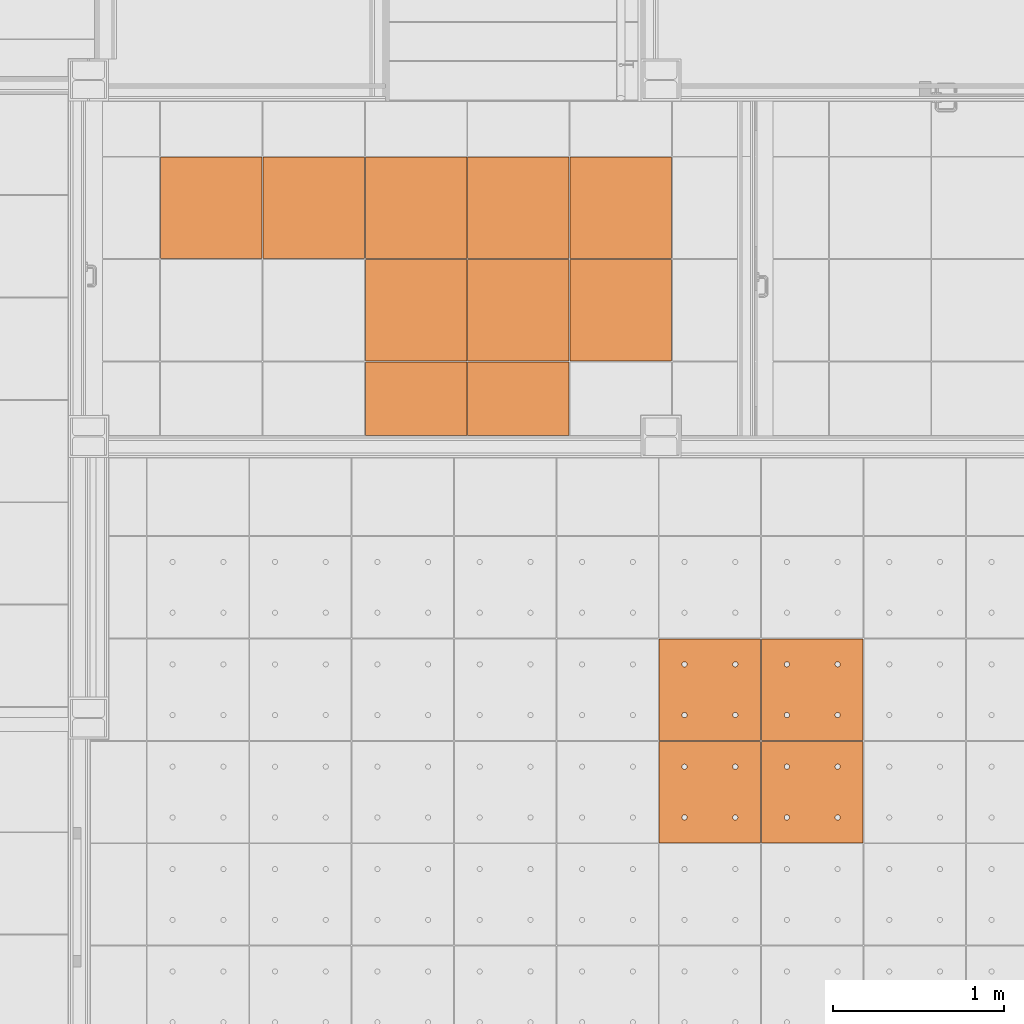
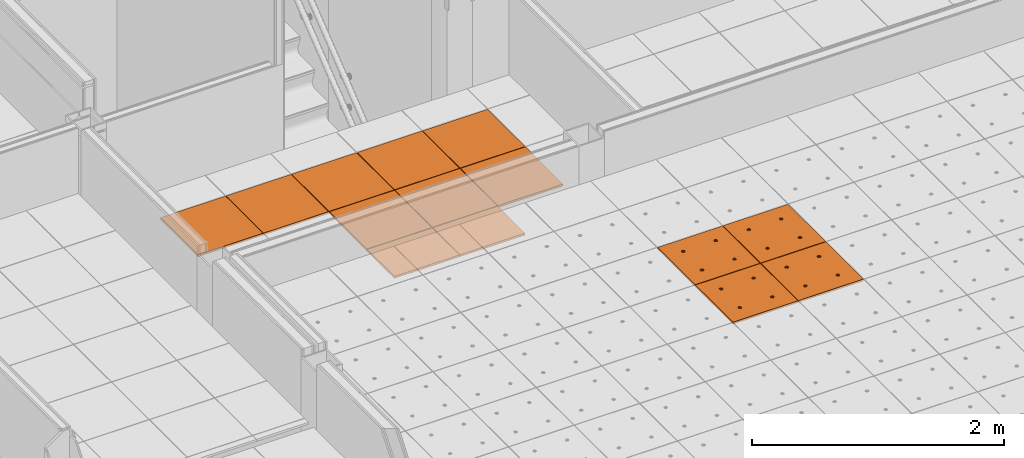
# One storey, part 260 of 338: 14 proxies, 2 elements without a shape of their own.
"""IFC2X3 building model written with IfcOpenShell, lengths in millimetres."""

from ifc_helpers import new_model, entity, si_unit, converted_unit, derived_unit, money_unit, direction, frame, origin_with_axes, place, context, subcontext, project, spatial, faceted_brep, source, transform, mapped, material, type_object, type_shapes, element, aggregate, save


model = new_model("IFC2X3")

# Units and contexts
model_context = context("Model", 3, precision=0.01, world=origin_with_axes(), true_north=direction((0.0, 1.0)))
plan_context = context("Plan", 3, precision=0.01, world=origin_with_axes(), true_north=direction((0.0, 1.0)))
body_context = subcontext(model_context, "Body", "Model", "MODEL_VIEW")
ifc_project = project(units=[si_unit("LENGTHUNIT", "METRE", prefix="MILLI"), si_unit("AREAUNIT", "SQUARE_METRE"), si_unit("VOLUMEUNIT", "CUBIC_METRE"), converted_unit("PLANEANGLEUNIT", "DEGREE", entity("IfcPlaneAngleMeasure", 0.0174532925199), si_unit("PLANEANGLEUNIT", "RADIAN"), dimensions=[0, 0, 0, 0, 0, 0, 0]), money_unit("EUR"), converted_unit("TIMEUNIT", "Year", entity("IfcTimeMeasure", 31556926.0), si_unit("TIMEUNIT", "SECOND"), dimensions=[0, 0, 1, 0, 0, 0, 0]), si_unit("MASSUNIT", "GRAM", prefix="KILO"), si_unit("THERMODYNAMICTEMPERATUREUNIT", "DEGREE_CELSIUS"), si_unit("LUMINOUSINTENSITYUNIT", "LUMEN"), si_unit("ENERGYUNIT", "JOULE", prefix="MEGA"), derived_unit("THERMALCONDUCTANCEUNIT", [(si_unit("POWERUNIT", "WATT"), 1), (si_unit("LENGTHUNIT", "METRE"), -1), (si_unit("THERMODYNAMICTEMPERATUREUNIT", "KELVIN"), -1)]), derived_unit("SPECIFICHEATCAPACITYUNIT", [(si_unit("ENERGYUNIT", "JOULE"), 1), (si_unit("MASSUNIT", "GRAM", prefix="KILO"), -1), (si_unit("THERMODYNAMICTEMPERATUREUNIT", "KELVIN"), -1)]), derived_unit("MASSDENSITYUNIT", [(si_unit("MASSUNIT", "GRAM", prefix="KILO"), 1), (si_unit("VOLUMEUNIT", "CUBIC_METRE"), -1)])], contexts=[model_context, plan_context])

# Site, building, storey
site_placement = place(None, origin_with_axes())
site = spatial("IfcSite", under=ifc_project, at=site_placement, Name="Fortuinstraat Woensdrecht", CompositionType="ELEMENT")
building_placement = place(site_placement, origin_with_axes())
building = spatial("IfcBuilding", under=site, at=building_placement, Name="IKC Fortuna", CompositionType="ELEMENT")
storey_placement = place(building_placement, origin_with_axes())
storey = spatial("IfcBuildingStorey", under=building, at=storey_placement, Name="00 begane grond", CompositionType="ELEMENT", Elevation=0.0)

# Covering, proxies
covering_type = type_object("IfcCoveringType", Name="Curtain Wall Type", PredefinedType="CEILING")
covering_1_placement = place(storey_placement, frame((28134.6600538, 19636.0305189, 2810.0), z_axis=(0.0, 0.0, 1.0), x_axis=(1.0, 0.0, 0.0)))
covering_1 = element("IfcCovering", 1, at=covering_1_placement, inside=storey, type_object=covering_type, Name="45_Plafondafwerking_P02", PredefinedType="CEILING")
ifc_material = material(Name="Gipsplaat")
building_element_proxy_type_1 = type_object("IfcBuildingElementProxyType", Name="Distinct Panel 600 x 600 x 20", PredefinedType="NOTDEFINED")
shared_shape_1 = source(origin_with_axes(), body_context, "Body", "Brep", [
    faceted_brep([(-2.49999999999, 2.5, -10.0), (-2.49999999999, 2.5, 10.0), (-597.5, 2.49999999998, 10.0), (-597.5, 2.49999999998, -10.0), (-2.50000000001, 597.5, -10.0), (-2.50000000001, 597.5, 10.0), (-597.5, 597.5, 10.0), (-597.5, 597.5, -10.0)], [[[0, 1, 2, 3]], [[4, 5, 1, 0]], [[1, 5, 6, 2]], [[3, 2, 6, 7]], [[0, 3, 7, 4]], [[7, 6, 5, 4]]]),
])
proxy_1_placement = place(covering_1_placement, frame((-1200.0, -463.766085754, 0.0), z_axis=(0.0, 0.0, 1.0), x_axis=(1.0, 0.0, 0.0)))
proxy_1 = element("IfcBuildingElementProxy", 2, at=proxy_1_placement, type_object=building_element_proxy_type_1, material=ifc_material, Name="__Panel-D", context=body_context, shape_type="MappedRepresentation", body=[
    mapped(shared_shape_1, transform((-300.0, 300.0, 0.0), x_axis=(-1.0, 0.0, 0.0), y_axis=(0.0, -1.0, 0.0), z_axis=(0.0, 0.0, 1.0))),
])
proxy_2_placement = place(covering_1_placement, frame((0.0, -463.766085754, 0.0), z_axis=(0.0, 0.0, 1.0), x_axis=(1.0, 0.0, 0.0)))
proxy_2 = element("IfcBuildingElementProxy", 3, at=proxy_2_placement, type_object=building_element_proxy_type_1, material=ifc_material, Name="__Panel-D", context=body_context, shape_type="MappedRepresentation", body=[
    mapped(shared_shape_1, transform((-300.0, 300.0, 0.0), x_axis=(-1.0, 0.0, 0.0), y_axis=(0.0, -1.0, 0.0), z_axis=(0.0, 0.0, 1.0))),
])
proxy_3_placement = place(covering_1_placement, frame((-600.0, -1063.76608575, 0.0), z_axis=(0.0, 0.0, 1.0), x_axis=(1.0, 0.0, 0.0)))
proxy_3 = element("IfcBuildingElementProxy", 4, at=proxy_3_placement, type_object=building_element_proxy_type_1, material=ifc_material, Name="__Panel-D", context=body_context, shape_type="MappedRepresentation", body=[
    mapped(shared_shape_1, transform((-300.0, 300.0, 0.0), x_axis=(-1.0, 0.0, 0.0), y_axis=(0.0, -1.0, 0.0), z_axis=(0.0, 0.0, 1.0))),
])
proxy_4_placement = place(covering_1_placement, frame((600.0, -463.766085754, 0.0), z_axis=(0.0, 0.0, 1.0), x_axis=(1.0, 0.0, 0.0)))
proxy_4 = element("IfcBuildingElementProxy", 5, at=proxy_4_placement, type_object=building_element_proxy_type_1, material=ifc_material, Name="__Panel-D", context=body_context, shape_type="MappedRepresentation", body=[
    mapped(shared_shape_1, transform((-300.0, 300.0, 0.0), x_axis=(-1.0, 0.0, 0.0), y_axis=(0.0, -1.0, 0.0), z_axis=(0.0, 0.0, 1.0))),
])
proxy_5_placement = place(covering_1_placement, frame((0.0, -1063.76608575, 0.0), z_axis=(0.0, 0.0, 1.0), x_axis=(1.0, 0.0, 0.0)))
proxy_5 = element("IfcBuildingElementProxy", 6, at=proxy_5_placement, type_object=building_element_proxy_type_1, material=ifc_material, Name="__Panel-D", context=body_context, shape_type="MappedRepresentation", body=[
    mapped(shared_shape_1, transform((-300.0, 300.0, 0.0), x_axis=(-1.0, 0.0, 0.0), y_axis=(0.0, -1.0, 0.0), z_axis=(0.0, 0.0, 1.0))),
])
shared_shape_2 = source(origin_with_axes(), body_context, "Body", "Brep", [
    faceted_brep([(-2.50000188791, 2.50000518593, -10.0), (-2.50000188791, 2.50000518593, 10.0), (-597.499994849, 2.50000192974, 10.0), (-597.499994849, 2.50000192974, -10.0), (-2.50000514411, 597.499998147, -10.0), (-2.50000514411, 597.499998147, 10.0), (-597.499998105, 597.499994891, 10.0), (-597.499998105, 597.499994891, -10.0)], [[[0, 1, 2, 3]], [[4, 5, 1, 0]], [[1, 5, 6, 2]], [[3, 2, 6, 7]], [[0, 3, 7, 4]], [[7, 6, 5, 4]]]),
])
proxy_6_placement = place(covering_1_placement, frame((-600.0, -463.766085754, 0.0), z_axis=(0.0, 0.0, 1.0), x_axis=(1.0, 0.0, 0.0)))
proxy_6 = element("IfcBuildingElementProxy", 7, at=proxy_6_placement, type_object=building_element_proxy_type_1, material=ifc_material, Name="__Panel-D", context=body_context, shape_type="MappedRepresentation", body=[
    mapped(shared_shape_2, transform((-300.0, 300.0, 0.0), x_axis=(-1.0, 0.0, 0.0), y_axis=(0.0, -1.0, 0.0), z_axis=(0.0, 0.0, 1.0))),
])
shared_shape_3 = source(origin_with_axes(), body_context, "Body", "Brep", [
    faceted_brep([(-2.5000069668, 2.4999963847, -10.0), (-2.5000069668, 2.4999963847, 10.0), (-597.499995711, 2.50000275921, 10.0), (-597.499995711, 2.50000275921, -10.0), (-2.50000214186, 597.499967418, -10.0), (-2.50000214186, 597.499967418, 10.0), (-597.499990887, 597.499973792, 10.0), (-597.499990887, 597.499973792, -10.0)], [[[0, 1, 2, 3]], [[4, 5, 1, 0]], [[1, 5, 6, 2]], [[3, 2, 6, 7]], [[0, 3, 7, 4]], [[7, 6, 5, 4]]]),
])
type_shapes(building_element_proxy_type_1, [shared_shape_1, shared_shape_2, shared_shape_3])
proxy_7_placement = place(covering_1_placement, frame((600.0, -1063.76608575, 0.0), z_axis=(0.0, 0.0, 1.0), x_axis=(1.0, 0.0, 0.0)))
proxy_7 = element("IfcBuildingElementProxy", 8, at=proxy_7_placement, type_object=building_element_proxy_type_1, material=ifc_material, Name="__Panel-D", context=body_context, shape_type="MappedRepresentation", body=[
    mapped(shared_shape_3, transform((-300.0, 300.0, 0.0), x_axis=(-1.0, 0.0, 0.0), y_axis=(0.0, -1.0, 0.0), z_axis=(0.0, 0.0, 1.0))),
])
proxy_8_placement = place(covering_1_placement, frame((-1800.0, -463.766085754, 0.0), z_axis=(0.0, 0.0, 1.0), x_axis=(1.0, 0.0, 0.0)))
proxy_8 = element("IfcBuildingElementProxy", 9, at=proxy_8_placement, type_object=building_element_proxy_type_1, material=ifc_material, Name="__Panel-D", context=body_context, shape_type="MappedRepresentation", body=[
    mapped(shared_shape_3, transform((-300.0, 300.0, 0.0), x_axis=(-1.0, 0.0, 0.0), y_axis=(0.0, -1.0, 0.0), z_axis=(0.0, 0.0, 1.0))),
])

covering_2_placement = place(storey_placement, frame((31656.9226967, 15748.5304598, 3210.0), z_axis=(0.0, 0.0, 1.0), x_axis=(1.0, 0.0, 0.0)))
covering_2 = element("IfcCovering", 10, at=covering_2_placement, inside=storey, type_object=covering_type, Name="45_Plafondafwerking_P01", PredefinedType="CEILING")
building_element_proxy_type_2 = type_object("IfcBuildingElementProxyType", Name="Main Panel 600 x 600 x 20", PredefinedType="NOTDEFINED")
shared_shape_4 = source(origin_with_axes(), body_context, "Body", "Brep", [
    faceted_brep([(2.49999999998, 2.49999999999, -10.0), (300.0, 2.49999999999, -10.0), (300.0, 2.49999999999, 10.0), (2.49999999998, 2.49999999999, 10.0), (2.49999999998, 300.0, -10.0), (2.49999999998, 597.5, -10.0), (300.0, 597.5, -10.0), (597.5, 597.5, -10.0), (597.5, 300.0, -10.0), (597.5, 2.49999999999, -10.0), (166.25, 450.06232995, -10.0), (165.79423259, 452.64711538, -10.0), (164.896546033, 455.11348892, -10.0), (163.58421608, 457.38651108, -10.0), (161.897117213, 459.39711721, -10.0), (159.886511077, 461.08421608, -10.0), (157.613488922, 462.39654603, -10.0), (155.147115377, 463.29423259, -10.0), (152.562329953, 463.75, -10.0), (149.937670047, 463.75, -10.0), (147.352884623, 463.29423259, -10.0), (144.886511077, 462.39654603, -10.0), (142.613488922, 461.08421608, -10.0), (140.602882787, 459.39711721, -10.0), (138.91578392, 457.38651108, -10.0), (137.603453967, 455.11348892, -10.0), (136.705767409, 452.64711538, -10.0), (136.25, 450.06232995, -10.0), (136.25, 448.75, -10.0), (136.25, 447.43767005, -10.0), (136.705767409, 444.85288462, -10.0), (137.603453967, 442.38651108, -10.0), (138.91578392, 440.11348892, -10.0), (140.602882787, 438.10288279, -10.0), (142.613488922, 436.41578392, -10.0), (144.886511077, 435.10345397, -10.0), (147.352884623, 434.20576741, -10.0), (149.937670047, 433.75, -10.0), (152.562329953, 433.75, -10.0), (155.147115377, 434.20576741, -10.0), (157.613488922, 435.10345397, -10.0), (159.886511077, 436.41578392, -10.0), (161.897117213, 438.10288279, -10.0), (163.58421608, 440.11348892, -10.0), (164.896546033, 442.38651108, -10.0), (165.79423259, 444.85288462, -10.0), (166.25, 447.43767005, -10.0), (463.75, 450.06232995, -10.0), (463.29423259, 452.64711538, -10.0), (462.396546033, 455.11348892, -10.0), (461.08421608, 457.38651108, -10.0), (459.397117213, 459.39711721, -10.0), (457.386511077, 461.08421608, -10.0), (455.113488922, 462.39654603, -10.0), (452.647115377, 463.29423259, -10.0), (450.062329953, 463.75, -10.0), (447.437670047, 463.75, -10.0), (444.852884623, 463.29423259, -10.0), (442.386511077, 462.39654603, -10.0), (440.113488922, 461.08421608, -10.0), (438.102882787, 459.39711721, -10.0), (436.41578392, 457.38651108, -10.0), (435.103453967, 455.11348892, -10.0), (434.205767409, 452.64711538, -10.0), (433.75, 450.06232995, -10.0), (433.75, 448.75, -10.0), (433.75, 447.43767005, -10.0), (434.205767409, 444.85288462, -10.0), (435.103453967, 442.38651108, -10.0), (436.41578392, 440.11348892, -10.0), (438.102882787, 438.10288279, -10.0), (440.113488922, 436.41578392, -10.0), (442.386511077, 435.10345397, -10.0), (444.852884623, 434.20576741, -10.0), (447.437670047, 433.75, -10.0), (450.062329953, 433.75, -10.0), (452.647115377, 434.20576741, -10.0), (455.113488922, 435.10345397, -10.0), (457.386511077, 436.41578392, -10.0), (459.397117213, 438.10288279, -10.0), (461.08421608, 440.11348892, -10.0), (462.396546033, 442.38651108, -10.0), (463.29423259, 444.85288462, -10.0), (463.75, 447.43767005, -10.0), (463.75, 152.56232995, -10.0), (463.29423259, 155.14711538, -10.0), (462.396546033, 157.61348892, -10.0), (461.08421608, 159.88651108, -10.0), (459.397117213, 161.89711721, -10.0), (457.386511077, 163.58421608, -10.0), (455.113488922, 164.89654603, -10.0), (452.647115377, 165.79423259, -10.0), (450.062329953, 166.25, -10.0), (447.437670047, 166.25, -10.0), (444.852884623, 165.79423259, -10.0), (442.386511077, 164.89654603, -10.0), (440.113488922, 163.58421608, -10.0), (438.102882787, 161.89711721, -10.0), (436.41578392, 159.88651108, -10.0), (435.103453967, 157.61348892, -10.0), (434.205767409, 155.14711538, -10.0), (433.75, 152.56232995, -10.0), (433.75, 151.25, -10.0), (433.75, 149.93767005, -10.0), (434.205767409, 147.35288462, -10.0), (435.103453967, 144.88651108, -10.0), (436.41578392, 142.61348892, -10.0), (438.102882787, 140.60288279, -10.0), (440.113488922, 138.91578392, -10.0), (442.386511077, 137.60345397, -10.0), (444.852884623, 136.70576741, -10.0), (447.437670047, 136.25, -10.0), (450.062329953, 136.25, -10.0), (452.647115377, 136.70576741, -10.0), (455.113488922, 137.60345397, -10.0), (457.386511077, 138.91578392, -10.0), (459.397117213, 140.60288279, -10.0), (461.08421608, 142.61348892, -10.0), (462.396546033, 144.88651108, -10.0), (463.29423259, 147.35288462, -10.0), (463.75, 149.93767005, -10.0), (166.25, 152.56232995, -10.0), (165.79423259, 155.14711538, -10.0), (164.896546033, 157.61348892, -10.0), (163.58421608, 159.88651108, -10.0), (161.897117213, 161.89711721, -10.0), (159.886511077, 163.58421608, -10.0), (157.613488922, 164.89654603, -10.0), (155.147115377, 165.79423259, -10.0), (152.562329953, 166.25, -10.0), (149.937670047, 166.25, -10.0), (147.352884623, 165.79423259, -10.0), (144.886511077, 164.89654603, -10.0), (142.613488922, 163.58421608, -10.0), (140.602882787, 161.89711721, -10.0), (138.91578392, 159.88651108, -10.0), (137.603453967, 157.61348892, -10.0), (136.705767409, 155.14711538, -10.0), (136.25, 152.56232995, -10.0), (136.25, 151.25, -10.0), (136.25, 149.93767005, -10.0), (136.705767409, 147.35288462, -10.0), (137.603453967, 144.88651108, -10.0), (138.91578392, 142.61348892, -10.0), (140.602882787, 140.60288279, -10.0), (142.613488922, 138.91578392, -10.0), (144.886511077, 137.60345397, -10.0), (147.352884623, 136.70576741, -10.0), (149.937670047, 136.25, -10.0), (152.562329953, 136.25, -10.0), (155.147115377, 136.70576741, -10.0), (157.613488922, 137.60345397, -10.0), (159.886511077, 138.91578392, -10.0), (161.897117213, 140.60288279, -10.0), (163.58421608, 142.61348892, -10.0), (164.896546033, 144.88651108, -10.0), (165.79423259, 147.35288462, -10.0), (166.25, 149.93767005, -10.0), (597.5, 2.49999999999, 10.0), (597.5, 300.0, 10.0), (597.5, 597.5, 10.0), (300.0, 597.5, 10.0), (2.49999999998, 597.5, 10.0), (2.49999999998, 300.0, 10.0), (166.25, 450.06232995, 10.0), (166.25, 447.43767005, 10.0), (165.79423259, 444.85288462, 10.0), (164.896546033, 442.38651108, 10.0), (163.58421608, 440.11348892, 10.0), (161.897117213, 438.10288279, 10.0), (159.886511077, 436.41578392, 10.0), (157.613488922, 435.10345397, 10.0), (155.147115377, 434.20576741, 10.0), (152.562329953, 433.75, 10.0), (149.937670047, 433.75, 10.0), (147.352884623, 434.20576741, 10.0), (144.886511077, 435.10345397, 10.0), (142.613488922, 436.41578392, 10.0), (140.602882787, 438.10288279, 10.0), (138.91578392, 440.11348892, 10.0), (137.603453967, 442.38651108, 10.0), (136.705767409, 444.85288462, 10.0), (136.25, 447.43767005, 10.0), (136.25, 448.75, 10.0), (136.25, 450.06232995, 10.0), (136.705767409, 452.64711538, 10.0), (137.603453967, 455.11348892, 10.0), (138.91578392, 457.38651108, 10.0), (140.602882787, 459.39711721, 10.0), (142.613488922, 461.08421608, 10.0), (144.886511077, 462.39654603, 10.0), (147.352884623, 463.29423259, 10.0), (149.937670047, 463.75, 10.0), (152.562329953, 463.75, 10.0), (155.147115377, 463.29423259, 10.0), (157.613488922, 462.39654603, 10.0), (159.886511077, 461.08421608, 10.0), (161.897117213, 459.39711721, 10.0), (163.58421608, 457.38651108, 10.0), (164.896546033, 455.11348892, 10.0), (165.79423259, 452.64711538, 10.0), (463.75, 450.06232995, 10.0), (463.75, 447.43767005, 10.0), (463.29423259, 444.85288462, 10.0), (462.396546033, 442.38651108, 10.0), (461.08421608, 440.11348892, 10.0), (459.397117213, 438.10288279, 10.0), (457.386511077, 436.41578392, 10.0), (455.113488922, 435.10345397, 10.0), (452.647115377, 434.20576741, 10.0), (450.062329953, 433.75, 10.0), (447.437670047, 433.75, 10.0), (444.852884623, 434.20576741, 10.0), (442.386511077, 435.10345397, 10.0), (440.113488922, 436.41578392, 10.0), (438.102882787, 438.10288279, 10.0), (436.41578392, 440.11348892, 10.0), (435.103453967, 442.38651108, 10.0), (434.205767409, 444.85288462, 10.0), (433.75, 447.43767005, 10.0), (433.75, 448.75, 10.0), (433.75, 450.06232995, 10.0), (434.205767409, 452.64711538, 10.0), (435.103453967, 455.11348892, 10.0), (436.41578392, 457.38651108, 10.0), (438.102882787, 459.39711721, 10.0), (440.113488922, 461.08421608, 10.0), (442.386511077, 462.39654603, 10.0), (444.852884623, 463.29423259, 10.0), (447.437670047, 463.75, 10.0), (450.062329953, 463.75, 10.0), (452.647115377, 463.29423259, 10.0), (455.113488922, 462.39654603, 10.0), (457.386511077, 461.08421608, 10.0), (459.397117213, 459.39711721, 10.0), (461.08421608, 457.38651108, 10.0), (462.396546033, 455.11348892, 10.0), (463.29423259, 452.64711538, 10.0), (463.75, 152.56232995, 10.0), (463.75, 149.93767005, 10.0), (463.29423259, 147.35288462, 10.0), (462.396546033, 144.88651108, 10.0), (461.08421608, 142.61348892, 10.0), (459.397117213, 140.60288279, 10.0), (457.386511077, 138.91578392, 10.0), (455.113488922, 137.60345397, 10.0), (452.647115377, 136.70576741, 10.0), (450.062329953, 136.25, 10.0), (447.437670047, 136.25, 10.0), (444.852884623, 136.70576741, 10.0), (442.386511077, 137.60345397, 10.0), (440.113488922, 138.91578392, 10.0), (438.102882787, 140.60288279, 10.0), (436.41578392, 142.61348892, 10.0), (435.103453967, 144.88651108, 10.0), (434.205767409, 147.35288462, 10.0), (433.75, 149.93767005, 10.0), (433.75, 151.25, 10.0), (433.75, 152.56232995, 10.0), (434.205767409, 155.14711538, 10.0), (435.103453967, 157.61348892, 10.0), (436.41578392, 159.88651108, 10.0), (438.102882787, 161.89711721, 10.0), (440.113488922, 163.58421608, 10.0), (442.386511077, 164.89654603, 10.0), (444.852884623, 165.79423259, 10.0), (447.437670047, 166.25, 10.0), (450.062329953, 166.25, 10.0), (452.647115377, 165.79423259, 10.0), (455.113488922, 164.89654603, 10.0), (457.386511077, 163.58421608, 10.0), (459.397117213, 161.89711721, 10.0), (461.08421608, 159.88651108, 10.0), (462.396546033, 157.61348892, 10.0), (463.29423259, 155.14711538, 10.0), (166.25, 152.56232995, 10.0), (166.25, 149.93767005, 10.0), (165.79423259, 147.35288462, 10.0), (164.896546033, 144.88651108, 10.0), (163.58421608, 142.61348892, 10.0), (161.897117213, 140.60288279, 10.0), (159.886511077, 138.91578392, 10.0), (157.613488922, 137.60345397, 10.0), (155.147115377, 136.70576741, 10.0), (152.562329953, 136.25, 10.0), (149.937670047, 136.25, 10.0), (147.352884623, 136.70576741, 10.0), (144.886511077, 137.60345397, 10.0), (142.613488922, 138.91578392, 10.0), (140.602882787, 140.60288279, 10.0), (138.91578392, 142.61348892, 10.0), (137.603453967, 144.88651108, 10.0), (136.705767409, 147.35288462, 10.0), (136.25, 149.93767005, 10.0), (136.25, 151.25, 10.0), (136.25, 152.56232995, 10.0), (136.705767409, 155.14711538, 10.0), (137.603453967, 157.61348892, 10.0), (138.91578392, 159.88651108, 10.0), (140.602882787, 161.89711721, 10.0), (142.613488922, 163.58421608, 10.0), (144.886511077, 164.89654603, 10.0), (147.352884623, 165.79423259, 10.0), (149.937670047, 166.25, 10.0), (152.562329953, 166.25, 10.0), (155.147115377, 165.79423259, 10.0), (157.613488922, 164.89654603, 10.0), (159.886511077, 163.58421608, 10.0), (161.897117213, 161.89711721, 10.0), (163.58421608, 159.88651108, 10.0), (164.896546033, 157.61348892, 10.0), (165.79423259, 155.14711538, 10.0)], [[[0, 1, 2, 3]], [[0, 4, 5, 6, 7, 8, 9, 1], [10, 11, 12, 13, 14, 15, 16, 17, 18, 19, 20, 21, 22, 23, 24, 25, 26, 27, 28, 29, 30, 31, 32, 33, 34, 35, 36, 37, 38, 39, 40, 41, 42, 43, 44, 45, 46], [47, 48, 49, 50, 51, 52, 53, 54, 55, 56, 57, 58, 59, 60, 61, 62, 63, 64, 65, 66, 67, 68, 69, 70, 71, 72, 73, 74, 75, 76, 77, 78, 79, 80, 81, 82, 83], [84, 85, 86, 87, 88, 89, 90, 91, 92, 93, 94, 95, 96, 97, 98, 99, 100, 101, 102, 103, 104, 105, 106, 107, 108, 109, 110, 111, 112, 113, 114, 115, 116, 117, 118, 119, 120], [121, 122, 123, 124, 125, 126, 127, 128, 129, 130, 131, 132, 133, 134, 135, 136, 137, 138, 139, 140, 141, 142, 143, 144, 145, 146, 147, 148, 149, 150, 151, 152, 153, 154, 155, 156, 157]], [[1, 9, 158, 2]], [[3, 2, 158, 159, 160, 161, 162, 163], [164, 165, 166, 167, 168, 169, 170, 171, 172, 173, 174, 175, 176, 177, 178, 179, 180, 181, 182, 183, 184, 185, 186, 187, 188, 189, 190, 191, 192, 193, 194, 195, 196, 197, 198, 199, 200], [201, 202, 203, 204, 205, 206, 207, 208, 209, 210, 211, 212, 213, 214, 215, 216, 217, 218, 219, 220, 221, 222, 223, 224, 225, 226, 227, 228, 229, 230, 231, 232, 233, 234, 235, 236, 237], [238, 239, 240, 241, 242, 243, 244, 245, 246, 247, 248, 249, 250, 251, 252, 253, 254, 255, 256, 257, 258, 259, 260, 261, 262, 263, 264, 265, 266, 267, 268, 269, 270, 271, 272, 273, 274], [275, 276, 277, 278, 279, 280, 281, 282, 283, 284, 285, 286, 287, 288, 289, 290, 291, 292, 293, 294, 295, 296, 297, 298, 299, 300, 301, 302, 303, 304, 305, 306, 307, 308, 309, 310, 311]], [[4, 0, 3, 163]], [[5, 4, 163, 162]], [[6, 5, 162, 161]], [[7, 6, 161, 160]], [[8, 7, 160, 159]], [[9, 8, 159, 158]], [[11, 10, 164, 200]], [[12, 11, 200, 199]], [[13, 12, 199, 198]], [[14, 13, 198, 197]], [[15, 14, 197, 196]], [[16, 15, 196, 195]], [[17, 16, 195, 194]], [[18, 17, 194, 193]], [[19, 18, 193, 192]], [[20, 19, 192, 191]], [[21, 20, 191, 190]], [[22, 21, 190, 189]], [[23, 22, 189, 188]], [[24, 23, 188, 187]], [[25, 24, 187, 186]], [[26, 25, 186, 185]], [[27, 26, 185, 184]], [[28, 27, 184, 183]], [[29, 28, 183, 182]], [[30, 29, 182, 181]], [[31, 30, 181, 180]], [[32, 31, 180, 179]], [[33, 32, 179, 178]], [[34, 33, 178, 177]], [[35, 34, 177, 176]], [[36, 35, 176, 175]], [[37, 36, 175, 174]], [[38, 37, 174, 173]], [[39, 38, 173, 172]], [[40, 39, 172, 171]], [[41, 40, 171, 170]], [[42, 41, 170, 169]], [[43, 42, 169, 168]], [[44, 43, 168, 167]], [[45, 44, 167, 166]], [[46, 45, 166, 165]], [[10, 46, 165, 164]], [[48, 47, 201, 237]], [[49, 48, 237, 236]], [[50, 49, 236, 235]], [[51, 50, 235, 234]], [[52, 51, 234, 233]], [[53, 52, 233, 232]], [[54, 53, 232, 231]], [[55, 54, 231, 230]], [[56, 55, 230, 229]], [[57, 56, 229, 228]], [[58, 57, 228, 227]], [[59, 58, 227, 226]], [[60, 59, 226, 225]], [[61, 60, 225, 224]], [[62, 61, 224, 223]], [[63, 62, 223, 222]], [[64, 63, 222, 221]], [[65, 64, 221, 220]], [[66, 65, 220, 219]], [[67, 66, 219, 218]], [[68, 67, 218, 217]], [[69, 68, 217, 216]], [[70, 69, 216, 215]], [[71, 70, 215, 214]], [[72, 71, 214, 213]], [[73, 72, 213, 212]], [[74, 73, 212, 211]], [[75, 74, 211, 210]], [[76, 75, 210, 209]], [[77, 76, 209, 208]], [[78, 77, 208, 207]], [[79, 78, 207, 206]], [[80, 79, 206, 205]], [[81, 80, 205, 204]], [[82, 81, 204, 203]], [[83, 82, 203, 202]], [[47, 83, 202, 201]], [[85, 84, 238, 274]], [[86, 85, 274, 273]], [[87, 86, 273, 272]], [[88, 87, 272, 271]], [[89, 88, 271, 270]], [[90, 89, 270, 269]], [[91, 90, 269, 268]], [[92, 91, 268, 267]], [[93, 92, 267, 266]], [[94, 93, 266, 265]], [[95, 94, 265, 264]], [[96, 95, 264, 263]], [[97, 96, 263, 262]], [[98, 97, 262, 261]], [[99, 98, 261, 260]], [[100, 99, 260, 259]], [[101, 100, 259, 258]], [[102, 101, 258, 257]], [[103, 102, 257, 256]], [[104, 103, 256, 255]], [[105, 104, 255, 254]], [[106, 105, 254, 253]], [[107, 106, 253, 252]], [[108, 107, 252, 251]], [[109, 108, 251, 250]], [[110, 109, 250, 249]], [[111, 110, 249, 248]], [[112, 111, 248, 247]], [[113, 112, 247, 246]], [[114, 113, 246, 245]], [[115, 114, 245, 244]], [[116, 115, 244, 243]], [[117, 116, 243, 242]], [[118, 117, 242, 241]], [[119, 118, 241, 240]], [[120, 119, 240, 239]], [[84, 120, 239, 238]], [[122, 121, 275, 311]], [[123, 122, 311, 310]], [[124, 123, 310, 309]], [[125, 124, 309, 308]], [[126, 125, 308, 307]], [[127, 126, 307, 306]], [[128, 127, 306, 305]], [[129, 128, 305, 304]], [[130, 129, 304, 303]], [[131, 130, 303, 302]], [[132, 131, 302, 301]], [[133, 132, 301, 300]], [[134, 133, 300, 299]], [[135, 134, 299, 298]], [[136, 135, 298, 297]], [[137, 136, 297, 296]], [[138, 137, 296, 295]], [[139, 138, 295, 294]], [[140, 139, 294, 293]], [[141, 140, 293, 292]], [[142, 141, 292, 291]], [[143, 142, 291, 290]], [[144, 143, 290, 289]], [[145, 144, 289, 288]], [[146, 145, 288, 287]], [[147, 146, 287, 286]], [[148, 147, 286, 285]], [[149, 148, 285, 284]], [[150, 149, 284, 283]], [[151, 150, 283, 282]], [[152, 151, 282, 281]], [[153, 152, 281, 280]], [[154, 153, 280, 279]], [[155, 154, 279, 278]], [[156, 155, 278, 277]], [[157, 156, 277, 276]], [[121, 157, 276, 275]]]),
])
type_shapes(building_element_proxy_type_2, [shared_shape_4])
proxy_9_placement = place(covering_2_placement, frame((-2400.0, 0.0, 1.74971148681e-10), z_axis=(0.0, 0.0, 1.0), x_axis=(1.0, 0.0, 0.0)))
proxy_9 = element("IfcBuildingElementProxy", 11, at=proxy_9_placement, type_object=building_element_proxy_type_2, material=ifc_material, Name="__600x630 Rockfon Krios", context=body_context, shape_type="MappedRepresentation", body=[
    mapped(shared_shape_4, transform((300.0, 300.0, 0.0), x_axis=(-1.0, 0.0, 0.0), y_axis=(0.0, -1.0, 0.0), z_axis=(0.0, 0.0, 1.0))),
])
proxy_10_placement = place(covering_2_placement, frame((-1800.0, 600.0, 1.55431223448e-10), z_axis=(0.0, 0.0, 1.0), x_axis=(1.0, 0.0, 0.0)))
proxy_10 = element("IfcBuildingElementProxy", 12, at=proxy_10_placement, type_object=building_element_proxy_type_2, material=ifc_material, Name="__600x644 Rockfon Krios", context=body_context, shape_type="MappedRepresentation", body=[
    mapped(shared_shape_4, transform((300.0, 300.0, 0.0), x_axis=(-1.0, 0.0, 0.0), y_axis=(0.0, -1.0, 0.0), z_axis=(0.0, 0.0, 1.0))),
])
proxy_11_placement = place(covering_2_placement, frame((-2400.0, 600.0, 1.74971148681e-10), z_axis=(0.0, 0.0, 1.0), x_axis=(1.0, 0.0, 0.0)))
proxy_11 = element("IfcBuildingElementProxy", 13, at=proxy_11_placement, type_object=building_element_proxy_type_2, material=ifc_material, Name="__600x648 Rockfon Krios", context=body_context, shape_type="MappedRepresentation", body=[
    mapped(shared_shape_4, transform((300.0, 300.0, 0.0), x_axis=(-1.0, 0.0, 0.0), y_axis=(0.0, -1.0, 0.0), z_axis=(0.0, 0.0, 1.0))),
])
proxy_12_placement = place(covering_2_placement, frame((-1800.0, 0.0, 1.55431223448e-10), z_axis=(0.0, 0.0, 1.0), x_axis=(1.0, 0.0, 0.0)))
proxy_12 = element("IfcBuildingElementProxy", 14, at=proxy_12_placement, type_object=building_element_proxy_type_2, material=ifc_material, Name="__600x687 Rockfon Krios", context=body_context, shape_type="MappedRepresentation", body=[
    mapped(shared_shape_4, transform((300.0, 300.0, 0.0), x_axis=(-1.0, 0.0, 0.0), y_axis=(0.0, -1.0, 0.0), z_axis=(0.0, 0.0, 1.0))),
])
aggregate(covering_2, [proxy_9, proxy_10, proxy_11, proxy_12])

# Proxy
building_element_proxy_type_3 = type_object("IfcBuildingElementProxyType", Name="Distinct Panel 600 x 437 x 20", PredefinedType="NOTDEFINED")
shared_shape_5 = source(origin_with_axes(), body_context, "Body", "Brep", [
    faceted_brep([(-2.49999999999, 2.5000033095, -10.0), (-2.49999999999, 2.5000033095, 10.0), (-597.5, 2.50000330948, 10.0), (-597.5, 2.50000330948, -10.0), (-2.50000000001, 434.967816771, -10.0), (-2.50000000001, 434.967816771, 10.0), (-597.5, 434.967798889, 10.0), (-597.5, 434.967798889, -10.0)], [[[0, 1, 2, 3]], [[4, 5, 1, 0]], [[1, 5, 6, 2]], [[3, 2, 6, 7]], [[0, 3, 7, 4]], [[7, 6, 5, 4]]]),
])
type_shapes(building_element_proxy_type_3, [shared_shape_5])
proxy_13_placement = place(covering_1_placement, frame((0.0, -1582.4999843, 0.0), z_axis=(0.0, 0.0, 1.0), x_axis=(1.0, 0.0, 0.0)))
proxy_13 = element("IfcBuildingElementProxy", 15, at=proxy_13_placement, type_object=building_element_proxy_type_3, material=ifc_material, Name="__Panel-D", context=body_context, shape_type="MappedRepresentation", body=[
    mapped(shared_shape_5, transform((-300.0, 218.733898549, 0.0), x_axis=(-1.0, 0.0, 0.0), y_axis=(0.0, -1.0, 0.0), z_axis=(0.0, 0.0, 1.0))),
])

proxy_14_placement = place(covering_1_placement, frame((-600.0, -1582.4999843, 0.0), z_axis=(0.0, 0.0, 1.0), x_axis=(1.0, 0.0, 0.0)))
proxy_14 = element("IfcBuildingElementProxy", 16, at=proxy_14_placement, type_object=building_element_proxy_type_3, material=ifc_material, Name="__Panel-D", context=body_context, shape_type="MappedRepresentation", body=[
    mapped(shared_shape_5, transform((-300.0, 218.733898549, 0.0), x_axis=(-1.0, 0.0, 0.0), y_axis=(0.0, -1.0, 0.0), z_axis=(0.0, 0.0, 1.0))),
])

aggregate(covering_1, [proxy_7, proxy_1, proxy_8, proxy_6, proxy_2, proxy_3, proxy_4, proxy_5, proxy_13, proxy_14])

save(model, "model.ifc")
